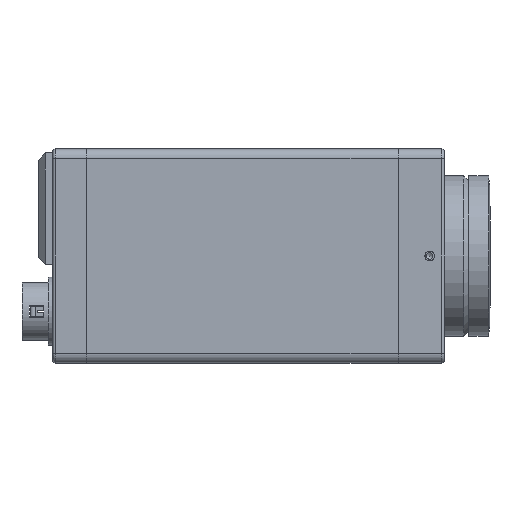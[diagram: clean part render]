
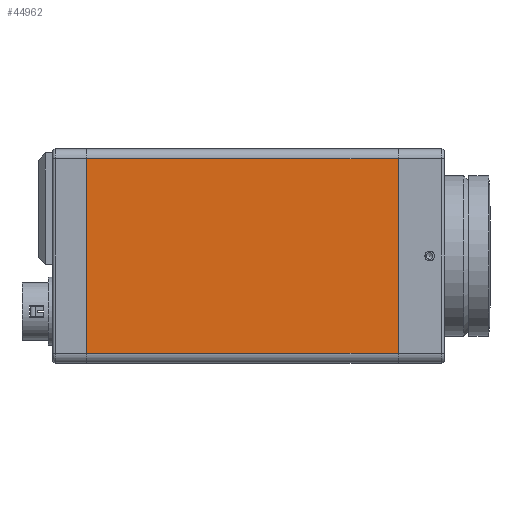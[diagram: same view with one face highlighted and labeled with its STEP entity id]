
A CAD part, front view. The second image highlights one B-rep face of the part: STEP entity #44962.
In plain terms, the highlighted planar face has unit normal (0, -1, 0) as drawn and (0, 0, -1) by its records, which use the part's own axes.
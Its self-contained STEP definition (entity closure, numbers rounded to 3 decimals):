
#43031=CARTESIAN_POINT('',(34.,-22.,-1.0));
#43032=VERTEX_POINT('',#43031);
#43040=CARTESIAN_POINT('',(34.,18.0,-1.0));
#43041=VERTEX_POINT('',#43040);
#43042=CARTESIAN_POINT('',(34.,18.0,-1.0));
#43043=DIRECTION('',(0.0,-1.0,0.0));
#43044=VECTOR('',#43043,40.);
#43045=LINE('',#43042,#43044);
#43046=EDGE_CURVE('',#43041,#43032,#43045,.T.);
#44811=CARTESIAN_POINT('',(-30.0,18.0,-1.0));
#44812=VERTEX_POINT('',#44811);
#44820=CARTESIAN_POINT('',(-30.0,-22.,-1.0));
#44821=VERTEX_POINT('',#44820);
#44822=CARTESIAN_POINT('',(-30.0,-22.,-1.0));
#44823=DIRECTION('',(0.0,1.0,0.0));
#44824=VECTOR('',#44823,40.);
#44825=LINE('',#44822,#44824);
#44826=EDGE_CURVE('',#44821,#44812,#44825,.T.);
#44930=CARTESIAN_POINT('',(-30.0,-22.,-1.0));
#44931=DIRECTION('',(1.0,0.0,0.0));
#44932=VECTOR('',#44931,64.);
#44933=LINE('',#44930,#44932);
#44934=EDGE_CURVE('',#44821,#43032,#44933,.T.);
#44946=CARTESIAN_POINT('',(2.,-2.,-1.0));
#44947=DIRECTION('',(0.0,0.0,1.0));
#44948=DIRECTION('',(1.0,0.0,0.0));
#44949=AXIS2_PLACEMENT_3D('',#44946,#44947,#44948);
#44950=PLANE('',#44949);
#44951=ORIENTED_EDGE('',*,*,#44934,.F.);
#44952=ORIENTED_EDGE('',*,*,#44826,.T.);
#44953=CARTESIAN_POINT('',(34.,18.0,-1.0));
#44954=DIRECTION('',(-1.0,0.0,0.0));
#44955=VECTOR('',#44954,64.);
#44956=LINE('',#44953,#44955);
#44957=EDGE_CURVE('',#43041,#44812,#44956,.T.);
#44958=ORIENTED_EDGE('',*,*,#44957,.F.);
#44959=ORIENTED_EDGE('',*,*,#43046,.T.);
#44960=EDGE_LOOP('',(#44951,#44952,#44958,#44959));
#44961=FACE_OUTER_BOUND('',#44960,.T.);
#44962=ADVANCED_FACE('',(#44961),#44950,.F.);
